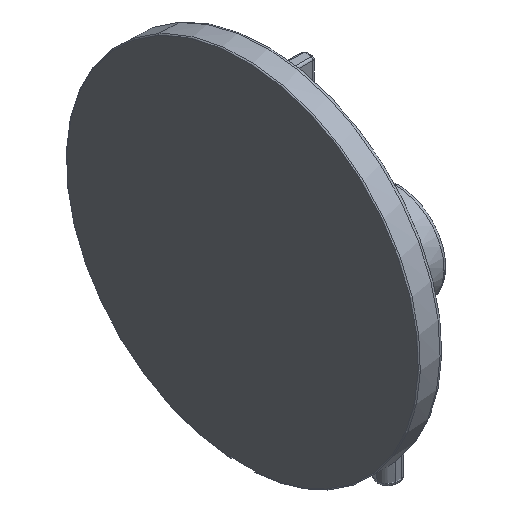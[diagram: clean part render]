
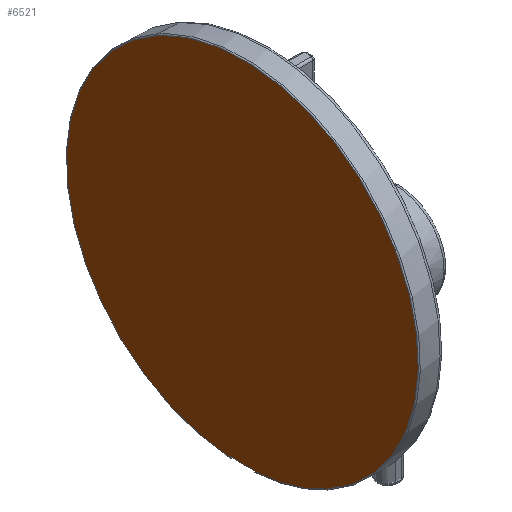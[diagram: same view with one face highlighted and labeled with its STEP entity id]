
A CAD part, isometric view. The second image highlights one B-rep face of the part: STEP entity #6521.
In plain terms, the highlighted planar face has unit normal (-1, 0, 0).
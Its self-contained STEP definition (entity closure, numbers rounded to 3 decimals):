
#1=CARTESIAN_POINT('',(59.,-6.,-83.707));
#8=DIRECTION('',(0.,0.,1.));
#9=VECTOR('',#8,0.58);
#10=CARTESIAN_POINT('',(59.,-6.,-84.287));
#11=LINE('',#10,#9);
#32=CARTESIAN_POINT('',(59.,-6.,-84.287));
#51=CARTESIAN_POINT('',(59.,0.,0.));
#52=DIRECTION('',(-1.,0.,0.));
#53=DIRECTION('',(0.,0.071,-0.997));
#54=AXIS2_PLACEMENT_3D('',#51,#52,#53);
#173=CARTESIAN_POINT('',(59.,6.,-84.287));
#187=DIRECTION('',(0.,0.,1.));
#188=VECTOR('',#187,0.58);
#189=CARTESIAN_POINT('',(59.,6.,-84.287));
#190=LINE('',#189,#188);
#191=CARTESIAN_POINT('',(59.,0.,0.));
#192=DIRECTION('',(-1.,0.,0.));
#193=DIRECTION('',(0.,0.479,0.878));
#194=AXIS2_PLACEMENT_3D('',#191,#192,#193);
#196=CARTESIAN_POINT('',(59.,0.,0.));
#197=DIRECTION('',(1.,0.,0.));
#198=DIRECTION('',(0.,0.479,0.878));
#199=AXIS2_PLACEMENT_3D('',#196,#197,#198);
#201=CARTESIAN_POINT('',(59.,0.,0.));
#202=DIRECTION('',(-1.,0.,0.));
#203=DIRECTION('',(0.,-0.071,-0.997));
#204=AXIS2_PLACEMENT_3D('',#201,#202,#203);
#211=CARTESIAN_POINT('',(59.,6.,-83.707));
#6037=VERTEX_POINT('',#32);
#6043=VERTEX_POINT('',#173);
#6045=CARTESIAN_POINT('',(59.,-40.512,-74.156));
#6046=VERTEX_POINT('',#6045);
#6047=CARTESIAN_POINT('',(59.,40.512,74.156));
#6048=VERTEX_POINT('',#6047);
#6071=VERTEX_POINT('',#1);
#6076=VERTEX_POINT('',#211);
#6505=CARTESIAN_POINT('',(59.,0.,83.));
#6506=DIRECTION('',(-1.,0.,0.));
#6507=DIRECTION('',(0.,1.,0.));
#6508=AXIS2_PLACEMENT_3D('',#6505,#6506,#6507);
#6509=PLANE('',#6508);
#6510=ORIENTED_EDGE('',*,*,#6401,.T.);
#6511=ORIENTED_EDGE('',*,*,#6425,.F.);
#6513=ORIENTED_EDGE('',*,*,#6512,.F.);
#6514=ORIENTED_EDGE('',*,*,#6491,.F.);
#6516=ORIENTED_EDGE('',*,*,#6515,.T.);
#6518=ORIENTED_EDGE('',*,*,#6517,.F.);
#6519=EDGE_LOOP('',(#6510,#6511,#6513,#6514,#6516,#6518));
#6520=FACE_OUTER_BOUND('',#6519,.F.);
#6521=ADVANCED_FACE('',(#6520),#6509,.T.);
#55=CIRCLE('',#54,83.922);
#195=CIRCLE('',#194,84.5);
#200=CIRCLE('',#199,84.5);
#205=CIRCLE('',#204,84.5);
#6401=EDGE_CURVE('',#6037,#6071,#11,.T.);
#6425=EDGE_CURVE('',#6076,#6071,#55,.T.);
#6491=EDGE_CURVE('',#6048,#6043,#195,.T.);
#6512=EDGE_CURVE('',#6043,#6076,#190,.T.);
#6515=EDGE_CURVE('',#6048,#6046,#200,.T.);
#6517=EDGE_CURVE('',#6037,#6046,#205,.T.);
